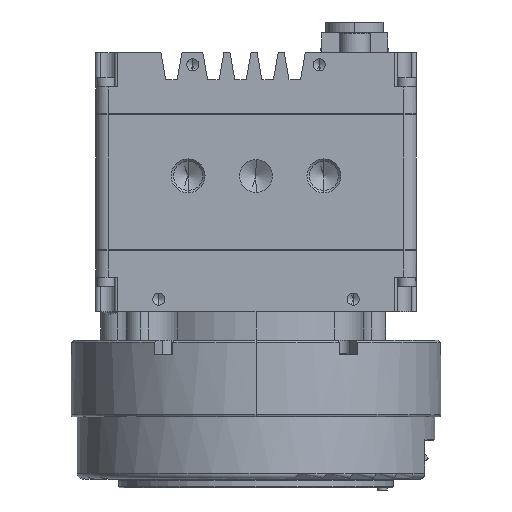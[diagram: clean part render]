
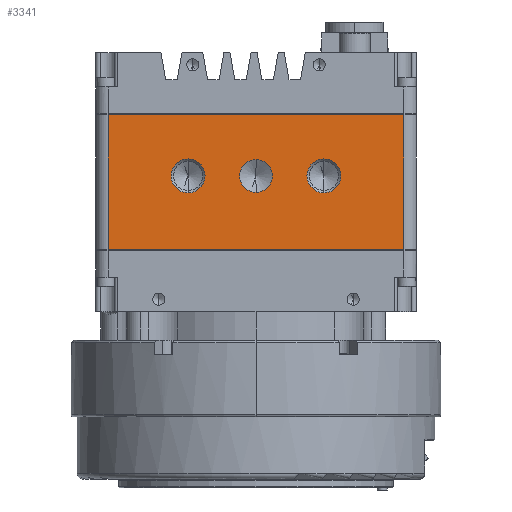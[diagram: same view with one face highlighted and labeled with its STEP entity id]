
A CAD part, front view. The second image highlights one B-rep face of the part: STEP entity #3341.
In plain terms, the highlighted planar face has unit normal (0, -1, 0).
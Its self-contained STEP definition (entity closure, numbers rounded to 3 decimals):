
#312 = CARTESIAN_POINT ( 'NONE',  ( -30.48, -26.67, -0.127 ) ) ;
#386 = CARTESIAN_POINT ( 'NONE',  ( -30.48, -26.67, 0. ) ) ;
#1566 = DIRECTION ( 'NONE',  ( 0., 0., -1. ) ) ;
#1764 = ORIENTED_EDGE ( 'NONE', *, *, #30496, .F. ) ;
#1870 = EDGE_CURVE ( 'NONE', #12309, #27370, #57262, .T. ) ;
#2146 = DIRECTION ( 'NONE',  ( 0., 0., 1. ) ) ;
#2173 = AXIS2_PLACEMENT_3D ( 'NONE', #14343, #44805, #53502 ) ;
#2397 = CARTESIAN_POINT ( 'NONE',  ( -14., -26.67, -9.2 ) ) ;
#3095 = DIRECTION ( 'NONE',  ( 0., -1., 0. ) ) ;
#3222 = ORIENTED_EDGE ( 'NONE', *, *, #7245, .F. ) ;
#3272 = VERTEX_POINT ( 'NONE', #22029 ) ;
#3341 = ADVANCED_FACE ( 'NONE', ( #56301, #39067, #47979, #11224 ), #11230, .F. ) ;
#5272 = CARTESIAN_POINT ( 'NONE',  ( -14., -26.67, -12.7 ) ) ;
#5769 = EDGE_LOOP ( 'NONE', ( #47491, #38834, #3222, #11815 ) ) ;
#6084 = VECTOR ( 'NONE', #40213, 1000. ) ;
#6230 = DIRECTION ( 'NONE',  ( 0., 1., 0. ) ) ;
#7113 = DIRECTION ( 'NONE',  ( 0., 0., -1. ) ) ;
#7245 = EDGE_CURVE ( 'NONE', #10416, #17499, #12137, .T. ) ;
#8670 = EDGE_CURVE ( 'NONE', #28496, #17499, #52829, .T. ) ;
#9864 = AXIS2_PLACEMENT_3D ( 'NONE', #37962, #20291, #7113 ) ;
#10416 = VERTEX_POINT ( 'NONE', #51222 ) ;
#11224 = FACE_OUTER_BOUND ( 'NONE', #5769, .T. ) ;
#11230 = PLANE ( 'NONE',  #25910 ) ;
#11815 = ORIENTED_EDGE ( 'NONE', *, *, #53736, .T. ) ;
#12137 = LINE ( 'NONE', #31744, #19756 ) ;
#12309 = VERTEX_POINT ( 'NONE', #24858 ) ;
#13430 = EDGE_LOOP ( 'NONE', ( #1764, #54173 ) ) ;
#13750 = CARTESIAN_POINT ( 'NONE',  ( 0., -26.67, -9.322 ) ) ;
#13786 = DIRECTION ( 'NONE',  ( 0., 0., -1. ) ) ;
#14055 = DIRECTION ( 'NONE',  ( -1., 0., 0. ) ) ;
#14343 = CARTESIAN_POINT ( 'NONE',  ( 0., -26.67, -12.7 ) ) ;
#14855 = VECTOR ( 'NONE', #22396, 1000. ) ;
#15155 = EDGE_LOOP ( 'NONE', ( #56309, #37302 ) ) ;
#15446 = VECTOR ( 'NONE', #22875, 1000. ) ;
#17499 = VERTEX_POINT ( 'NONE', #36259 ) ;
#17888 = LINE ( 'NONE', #38664, #6084 ) ;
#19330 = CIRCLE ( 'NONE', #41349, 3.5 ) ;
#19756 = VECTOR ( 'NONE', #14055, 1000. ) ;
#20291 = DIRECTION ( 'NONE',  ( 0., -1., 0. ) ) ;
#22029 = CARTESIAN_POINT ( 'NONE',  ( 30.48, -26.67, -0.127 ) ) ;
#22335 = DIRECTION ( 'NONE',  ( 0., -1., 0. ) ) ;
#22396 = DIRECTION ( 'NONE',  ( -1., 0., 0. ) ) ;
#22480 = VERTEX_POINT ( 'NONE', #13750 ) ;
#22553 = EDGE_CURVE ( 'NONE', #27370, #12309, #19330, .T. ) ;
#22875 = DIRECTION ( 'NONE',  ( 0., 0., -1. ) ) ;
#22882 = DIRECTION ( 'NONE',  ( 0., -1., 0. ) ) ;
#24572 = AXIS2_PLACEMENT_3D ( 'NONE', #29702, #3095, #56530 ) ;
#24858 = CARTESIAN_POINT ( 'NONE',  ( 14., -26.67, -16.2 ) ) ;
#25643 = ORIENTED_EDGE ( 'NONE', *, *, #42392, .F. ) ;
#25910 = AXIS2_PLACEMENT_3D ( 'NONE', #46131, #6230, #2146 ) ;
#26942 = EDGE_CURVE ( 'NONE', #22480, #42696, #44832, .T. ) ;
#27326 = DIRECTION ( 'NONE',  ( 0., 0., -1. ) ) ;
#27358 = LINE ( 'NONE', #312, #14855 ) ;
#27370 = VERTEX_POINT ( 'NONE', #56518 ) ;
#27911 = CARTESIAN_POINT ( 'NONE',  ( 0., -26.67, -16.078 ) ) ;
#28023 = VERTEX_POINT ( 'NONE', #30597 ) ;
#28221 = EDGE_CURVE ( 'NONE', #3272, #28496, #27358, .T. ) ;
#28496 = VERTEX_POINT ( 'NONE', #56407 ) ;
#29376 = EDGE_CURVE ( 'NONE', #28023, #39473, #48681, .T. ) ;
#29702 = CARTESIAN_POINT ( 'NONE',  ( -14., -26.67, -12.7 ) ) ;
#30496 = EDGE_CURVE ( 'NONE', #42696, #22480, #53360, .T. ) ;
#30597 = CARTESIAN_POINT ( 'NONE',  ( -14., -26.67, -16.2 ) ) ;
#31744 = CARTESIAN_POINT ( 'NONE',  ( -30.48, -26.67, -27.813 ) ) ;
#31775 = EDGE_LOOP ( 'NONE', ( #50195, #25643 ) ) ;
#34325 = AXIS2_PLACEMENT_3D ( 'NONE', #48671, #22335, #13786 ) ;
#36259 = CARTESIAN_POINT ( 'NONE',  ( -30.48, -26.67, -27.813 ) ) ;
#37302 = ORIENTED_EDGE ( 'NONE', *, *, #22553, .F. ) ;
#37962 = CARTESIAN_POINT ( 'NONE',  ( 14., -26.67, -12.7 ) ) ;
#38664 = CARTESIAN_POINT ( 'NONE',  ( 30.48, -26.67, 0. ) ) ;
#38834 = ORIENTED_EDGE ( 'NONE', *, *, #8670, .T. ) ;
#39067 = FACE_BOUND ( 'NONE', #15155, .T. ) ;
#39473 = VERTEX_POINT ( 'NONE', #2397 ) ;
#40213 = DIRECTION ( 'NONE',  ( 0., 0., 1. ) ) ;
#41349 = AXIS2_PLACEMENT_3D ( 'NONE', #49408, #22882, #27326 ) ;
#41359 = DIRECTION ( 'NONE',  ( 0., -1., 0. ) ) ;
#42233 = CIRCLE ( 'NONE', #55459, 3.5 ) ;
#42392 = EDGE_CURVE ( 'NONE', #39473, #28023, #42233, .T. ) ;
#42696 = VERTEX_POINT ( 'NONE', #27911 ) ;
#44805 = DIRECTION ( 'NONE',  ( 0., -1., 0. ) ) ;
#44832 = CIRCLE ( 'NONE', #2173, 3.378 ) ;
#46131 = CARTESIAN_POINT ( 'NONE',  ( -33.02, -26.67, 0. ) ) ;
#47491 = ORIENTED_EDGE ( 'NONE', *, *, #28221, .T. ) ;
#47979 = FACE_BOUND ( 'NONE', #13430, .T. ) ;
#48671 = CARTESIAN_POINT ( 'NONE',  ( 0., -26.67, -12.7 ) ) ;
#48681 = CIRCLE ( 'NONE', #24572, 3.5 ) ;
#49408 = CARTESIAN_POINT ( 'NONE',  ( 14., -26.67, -12.7 ) ) ;
#50195 = ORIENTED_EDGE ( 'NONE', *, *, #29376, .F. ) ;
#51222 = CARTESIAN_POINT ( 'NONE',  ( 30.48, -26.67, -27.813 ) ) ;
#52829 = LINE ( 'NONE', #386, #15446 ) ;
#53360 = CIRCLE ( 'NONE', #34325, 3.378 ) ;
#53502 = DIRECTION ( 'NONE',  ( 0., 0., -1. ) ) ;
#53736 = EDGE_CURVE ( 'NONE', #10416, #3272, #17888, .T. ) ;
#54173 = ORIENTED_EDGE ( 'NONE', *, *, #26942, .F. ) ;
#55459 = AXIS2_PLACEMENT_3D ( 'NONE', #5272, #41359, #1566 ) ;
#56301 = FACE_BOUND ( 'NONE', #31775, .T. ) ;
#56309 = ORIENTED_EDGE ( 'NONE', *, *, #1870, .F. ) ;
#56407 = CARTESIAN_POINT ( 'NONE',  ( -30.48, -26.67, -0.127 ) ) ;
#56518 = CARTESIAN_POINT ( 'NONE',  ( 14., -26.67, -9.2 ) ) ;
#56530 = DIRECTION ( 'NONE',  ( 0., 0., -1. ) ) ;
#57262 = CIRCLE ( 'NONE', #9864, 3.5 ) ;
